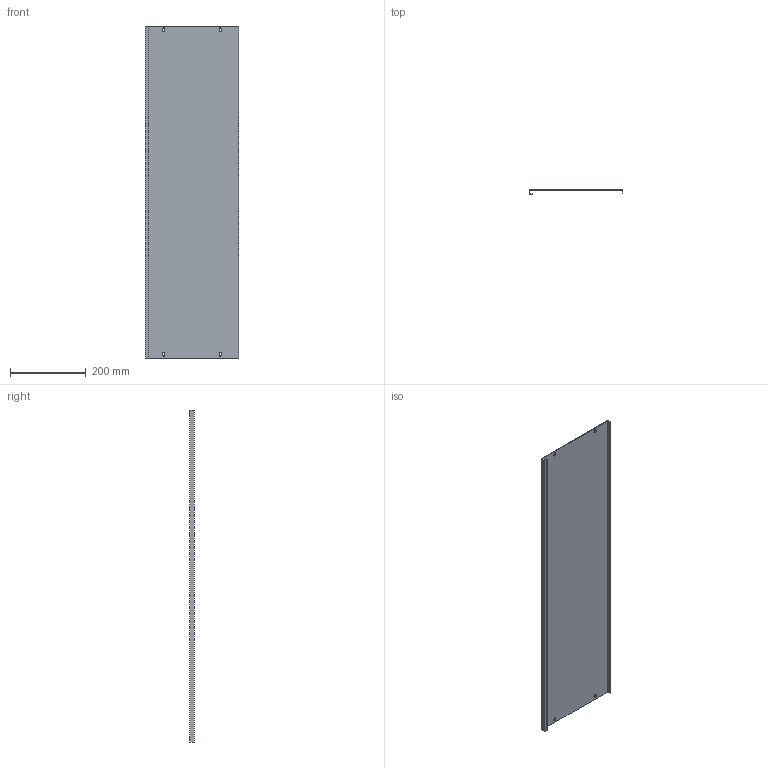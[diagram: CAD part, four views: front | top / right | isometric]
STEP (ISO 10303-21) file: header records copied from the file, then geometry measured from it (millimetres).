
FILE_DESCRIPTION (( 'STEP AP214' ), '1' );
FILE_NAME ('FO-00-PVS-025-100 Ïëàñòðîí ãëóõîé âíóòðåííèé 250õ1000.STEP', '2025-08-26T10:16:22', ( '' ), ( '' ), 'SwSTEP 2.0', 'SolidWorks 2023', '' );
FILE_SCHEMA (( 'AUTOMOTIVE_DESIGN' ));
Length unit declared in the file: millimetre
Products named in the file (1): FO-00-PVS-025-100 Пластрон глухой внутренний 250х1000
Bounding box: 248 x 12.5 x 879 mm (x, y, z)
Volume: 360912.1 mm3; surface area: 484843.1 mm2
Topology: 1 solids, 1 shells, 42 faces, 120 edges, 80 vertices
Faces by surface type: plane 30, cylinder 12
Entity records: 1407 total; most frequent: CARTESIAN_POINT 243, ORIENTED_EDGE 240, DIRECTION 230, EDGE_CURVE 120, LINE 96, VECTOR 96, VERTEX_POINT 80, AXIS2_PLACEMENT_3D 67
